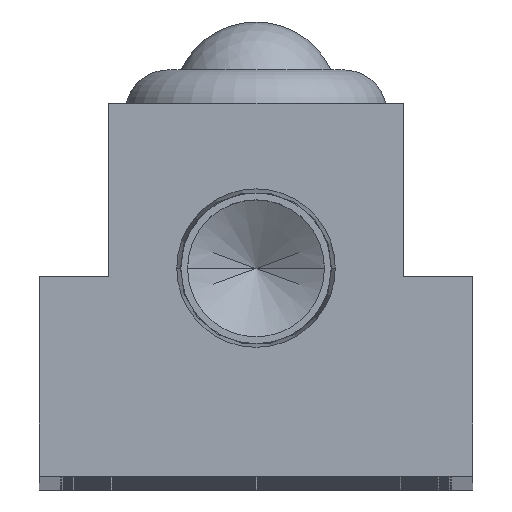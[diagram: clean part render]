
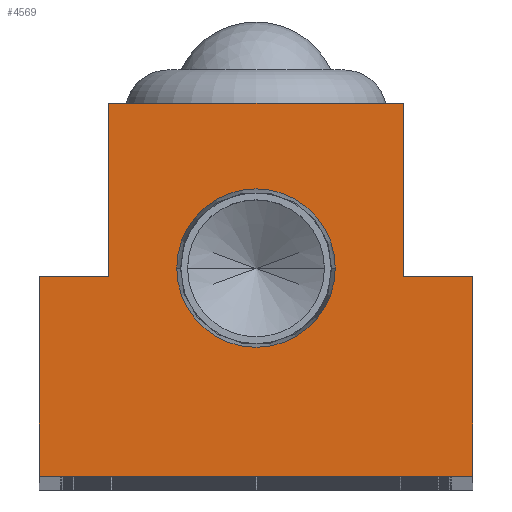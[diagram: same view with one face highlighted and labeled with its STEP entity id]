
A CAD part, top view. The second image highlights one B-rep face of the part: STEP entity #4569.
In plain terms, the highlighted planar face has unit normal (0, 0, 1).
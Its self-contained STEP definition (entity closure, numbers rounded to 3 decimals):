
#79 = CARTESIAN_POINT ( 'NONE',  ( 0., 12., 0. ) ) ;
#452 = LINE ( 'NONE', #9078, #9970 ) ;
#468 = EDGE_CURVE ( 'NONE', #10007, #14471, #4508, .T. ) ;
#746 = DIRECTION ( 'NONE',  ( 0., 1., 0. ) ) ;
#773 = CARTESIAN_POINT ( 'NONE',  ( 0., 0., 0. ) ) ;
#960 = VECTOR ( 'NONE', #1945, 1000. ) ;
#983 = CARTESIAN_POINT ( 'NONE',  ( 12.5, 11.5, 0. ) ) ;
#1144 = VERTEX_POINT ( 'NONE', #9606 ) ;
#1264 = EDGE_LOOP ( 'NONE', ( #14447, #2777 ) ) ;
#1297 = DIRECTION ( 'NONE',  ( 1., 0., 0. ) ) ;
#1313 = LINE ( 'NONE', #4602, #10463 ) ;
#1552 = CARTESIAN_POINT ( 'NONE',  ( 8.5, 11.5, 0. ) ) ;
#1749 = VECTOR ( 'NONE', #15249, 1000. ) ;
#1777 = AXIS2_PLACEMENT_3D ( 'NONE', #79, #8432, #1297 ) ;
#1931 = AXIS2_PLACEMENT_3D ( 'NONE', #773, #11503, #4566 ) ;
#1945 = DIRECTION ( 'NONE',  ( -1., 0., 0. ) ) ;
#1973 = VERTEX_POINT ( 'NONE', #11795 ) ;
#1996 = EDGE_CURVE ( 'NONE', #1144, #9052, #12941, .T. ) ;
#2416 = VERTEX_POINT ( 'NONE', #3853 ) ;
#2616 = EDGE_CURVE ( 'NONE', #14987, #10650, #7500, .T. ) ;
#2777 = ORIENTED_EDGE ( 'NONE', *, *, #1996, .F. ) ;
#2852 = CARTESIAN_POINT ( 'NONE',  ( -12.5, 11.5, 0. ) ) ;
#2934 = ORIENTED_EDGE ( 'NONE', *, *, #4402, .T. ) ;
#2981 = FACE_BOUND ( 'NONE', #1264, .T. ) ;
#3042 = VERTEX_POINT ( 'NONE', #1552 ) ;
#3161 = CARTESIAN_POINT ( 'NONE',  ( 12.5, 11.5, 0. ) ) ;
#3409 = CARTESIAN_POINT ( 'NONE',  ( 12.5, 0., 0. ) ) ;
#3844 = CARTESIAN_POINT ( 'NONE',  ( 0., 12., 0. ) ) ;
#3853 = CARTESIAN_POINT ( 'NONE',  ( -8.5, 11.5, 0. ) ) ;
#4033 = DIRECTION ( 'NONE',  ( 0., -1., 0. ) ) ;
#4175 = ORIENTED_EDGE ( 'NONE', *, *, #11345, .T. ) ;
#4298 = DIRECTION ( 'NONE',  ( -1., 0., 0. ) ) ;
#4364 = VECTOR ( 'NONE', #10420, 1000. ) ;
#4402 = EDGE_CURVE ( 'NONE', #9815, #3042, #14681, .T. ) ;
#4508 = LINE ( 'NONE', #9041, #960 ) ;
#4566 = DIRECTION ( 'NONE',  ( 1., 0., 0. ) ) ;
#4569 = ADVANCED_FACE ( 'NONE', ( #2981, #12083 ), #10252, .T. ) ;
#4602 = CARTESIAN_POINT ( 'NONE',  ( -8.5, 11.5, 0. ) ) ;
#4711 = ORIENTED_EDGE ( 'NONE', *, *, #13504, .T. ) ;
#4888 = LINE ( 'NONE', #6933, #1749 ) ;
#5032 = DIRECTION ( 'NONE',  ( 1., 0., 0. ) ) ;
#5196 = VECTOR ( 'NONE', #4298, 1000. ) ;
#5247 = VECTOR ( 'NONE', #11710, 1000. ) ;
#5404 = ORIENTED_EDGE ( 'NONE', *, *, #468, .T. ) ;
#5794 = DIRECTION ( 'NONE',  ( -1., 0., 0. ) ) ;
#6933 = CARTESIAN_POINT ( 'NONE',  ( -8.5, 21.5, 0. ) ) ;
#6941 = AXIS2_PLACEMENT_3D ( 'NONE', #3844, #12159, #5032 ) ;
#7110 = CIRCLE ( 'NONE', #6941, 4.574 ) ;
#7409 = EDGE_CURVE ( 'NONE', #10650, #9815, #13253, .T. ) ;
#7500 = LINE ( 'NONE', #15117, #4364 ) ;
#8432 = DIRECTION ( 'NONE',  ( 0., 0., 1. ) ) ;
#8465 = CARTESIAN_POINT ( 'NONE',  ( 8.5, 21.5, 0. ) ) ;
#8510 = ORIENTED_EDGE ( 'NONE', *, *, #9545, .T. ) ;
#8934 = CARTESIAN_POINT ( 'NONE',  ( -8.5, 21.5, 0. ) ) ;
#9021 = EDGE_LOOP ( 'NONE', ( #12206, #2934, #4711, #5404, #8510, #13493, #4175, #14688 ) ) ;
#9041 = CARTESIAN_POINT ( 'NONE',  ( 8.5, 21.5, 0. ) ) ;
#9052 = VERTEX_POINT ( 'NONE', #11834 ) ;
#9078 = CARTESIAN_POINT ( 'NONE',  ( 8.5, 11.5, 0. ) ) ;
#9545 = EDGE_CURVE ( 'NONE', #14471, #2416, #4888, .T. ) ;
#9606 = CARTESIAN_POINT ( 'NONE',  ( -4.574, 12., 0. ) ) ;
#9815 = VERTEX_POINT ( 'NONE', #983 ) ;
#9970 = VECTOR ( 'NONE', #746, 1000. ) ;
#10007 = VERTEX_POINT ( 'NONE', #8465 ) ;
#10252 = PLANE ( 'NONE',  #1931 ) ;
#10420 = DIRECTION ( 'NONE',  ( 1., 0., 0. ) ) ;
#10463 = VECTOR ( 'NONE', #5794, 1000. ) ;
#10650 = VERTEX_POINT ( 'NONE', #13580 ) ;
#11345 = EDGE_CURVE ( 'NONE', #1973, #14987, #14152, .T. ) ;
#11503 = DIRECTION ( 'NONE',  ( 0., 0., 1. ) ) ;
#11585 = EDGE_CURVE ( 'NONE', #2416, #1973, #1313, .T. ) ;
#11710 = DIRECTION ( 'NONE',  ( 0., 1., 0. ) ) ;
#11795 = CARTESIAN_POINT ( 'NONE',  ( -12.5, 11.5, 0. ) ) ;
#11834 = CARTESIAN_POINT ( 'NONE',  ( 4.574, 12., 0. ) ) ;
#12083 = FACE_OUTER_BOUND ( 'NONE', #9021, .T. ) ;
#12159 = DIRECTION ( 'NONE',  ( 0., 0., 1. ) ) ;
#12206 = ORIENTED_EDGE ( 'NONE', *, *, #7409, .T. ) ;
#12487 = CARTESIAN_POINT ( 'NONE',  ( -12.5, 0., 0. ) ) ;
#12941 = CIRCLE ( 'NONE', #1777, 4.574 ) ;
#13253 = LINE ( 'NONE', #3409, #5247 ) ;
#13493 = ORIENTED_EDGE ( 'NONE', *, *, #11585, .T. ) ;
#13504 = EDGE_CURVE ( 'NONE', #3042, #10007, #452, .T. ) ;
#13580 = CARTESIAN_POINT ( 'NONE',  ( 12.5, 0., 0. ) ) ;
#13782 = VECTOR ( 'NONE', #4033, 1000. ) ;
#14152 = LINE ( 'NONE', #2852, #13782 ) ;
#14447 = ORIENTED_EDGE ( 'NONE', *, *, #15356, .F. ) ;
#14471 = VERTEX_POINT ( 'NONE', #8934 ) ;
#14681 = LINE ( 'NONE', #3161, #5196 ) ;
#14688 = ORIENTED_EDGE ( 'NONE', *, *, #2616, .T. ) ;
#14987 = VERTEX_POINT ( 'NONE', #12487 ) ;
#15117 = CARTESIAN_POINT ( 'NONE',  ( -12.5, 0., 0. ) ) ;
#15249 = DIRECTION ( 'NONE',  ( 0., -1., 0. ) ) ;
#15356 = EDGE_CURVE ( 'NONE', #9052, #1144, #7110, .T. ) ;
